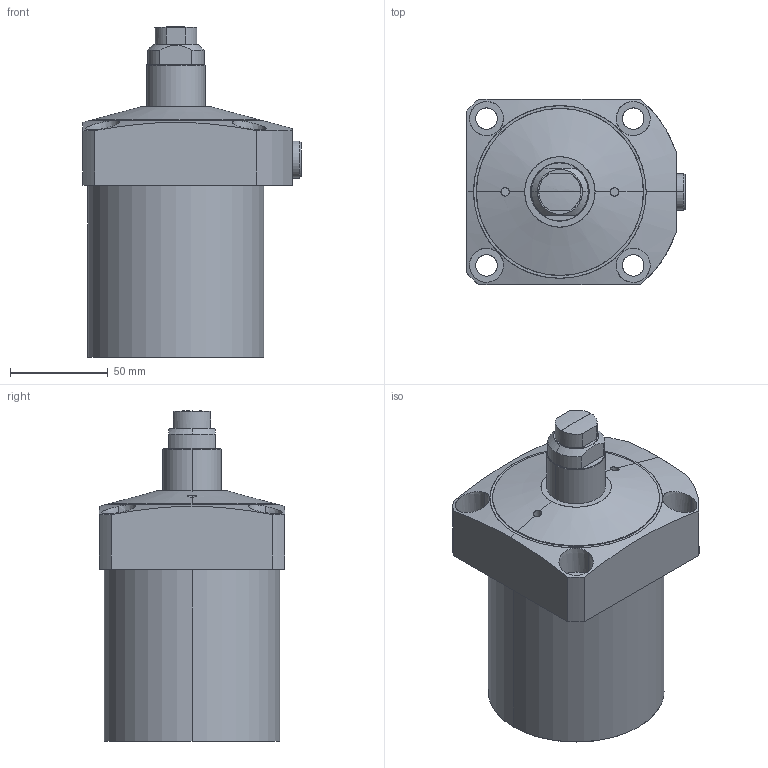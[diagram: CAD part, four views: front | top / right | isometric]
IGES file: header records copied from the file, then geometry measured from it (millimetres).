
Start section: SolidWorks IGES file using analytic representation for surfaces
Global section: file name: D:\abhilash\nijil\cylinder\Clasys1\lcE\cx\902\pt\0203-0601-E.IGS; native system: SolidWorks 2010; preprocessor: SolidWorks 2010; author: nidheesh; date: 130730.121706; units: millimetre
Bounding box: 111.5 x 95 x 169 mm (x, y, z)
Surface area: 64949.8 mm2 (no closed solid volume)
Topology: 0 solids, 0 shells, 81 faces, 1790 edges, 1788 vertices
Faces by surface type: revolution 50, bspline 31
